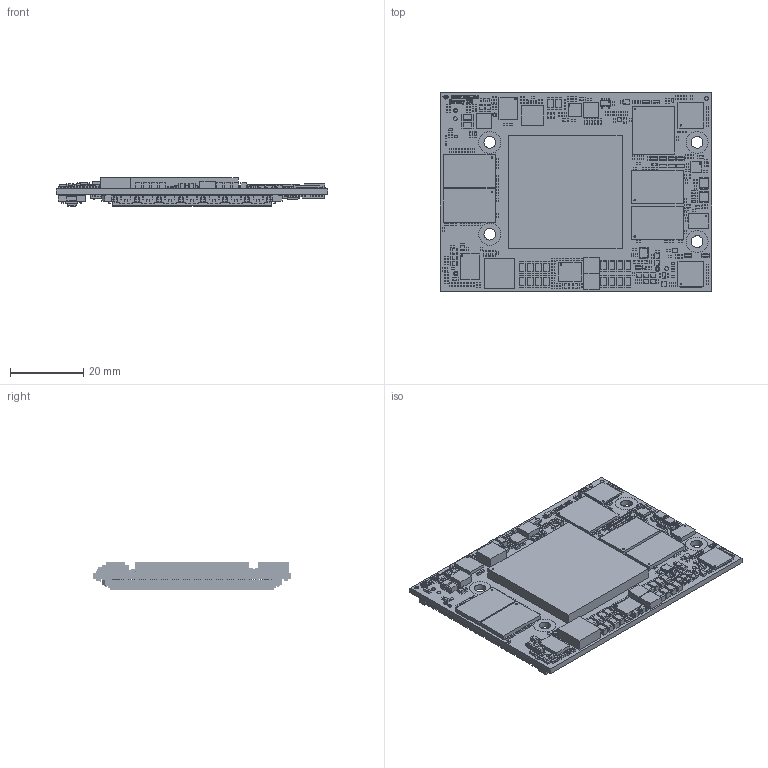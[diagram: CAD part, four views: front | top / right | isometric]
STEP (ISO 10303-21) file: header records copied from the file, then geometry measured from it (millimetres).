
FILE_DESCRIPTION(('Open CASCADE Model'),'2;1');
FILE_NAME('Open CASCADE Shape Model','2021-11-03T13:39:58',('Author'),( 'Open CASCADE'),'Open CASCADE STEP processor 6.8','Open CASCADE 6.8' ,'Unknown');
FILE_SCHEMA(('AUTOMOTIVE_DESIGN { 1 0 10303 214 1 1 1 1 }'));
Length unit declared in the file: millimetre
Products named in the file (816): --
Assembly tree (1424 placements, depth 5):
  --
    --
      --
    --
      --
        --
    --
      --
        --
        --
        --
        --
        --
      --
        --
        --
        --
        --
        --
        --
        --
        --
        --
    --
      --
        --
          --
        --
          --
        --
          --
        --
          --
        --
          --
        --
          --
        --
          --
      --
        --
      --
        --
      --
        --
    --
      --  x4
      --  x4
    --
      --
        --
      --
        --
    --
      --
        --
      --
        --
    --
      --
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Bounding box: 74 x 54 x 7.81 mm (x, y, z)
Volume: 13428.8 mm3; surface area: 23898.3 mm2
Topology: 1809 solids, 1809 shells, 22043 faces, 51832 edges, 33985 vertices
Faces by surface type: plane 20503, extrusion 910, cylinder 567, sphere 34, torus 16, cone 12, bspline 1
Full cylindrical faces by diameter (mm): 0.19 x2, 0.2 x16, 0.3 x3, 0.4 x20, 1 x6, 1.1 x3, 1.2 x3, 3.2 x8, 6 x4
Entity records: 256393 total; most frequent: CARTESIAN_POINT 42901, ORIENTED_EDGE 34394, DIRECTION 31420, EDGE_CURVE 17197, VECTOR 15638, LINE 14820, VERTEX_POINT 11355, AXIS2_PLACEMENT_3D 7891
